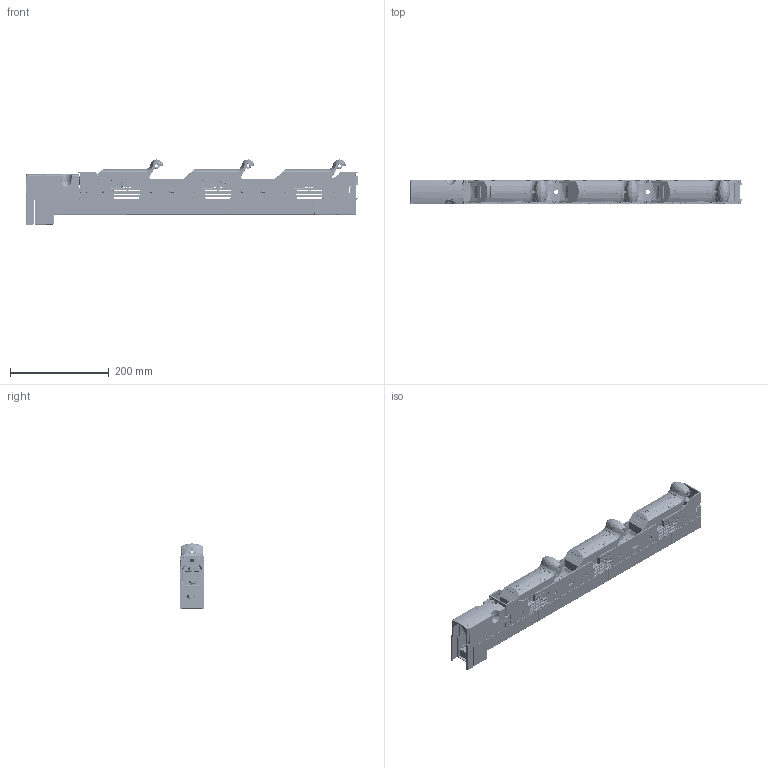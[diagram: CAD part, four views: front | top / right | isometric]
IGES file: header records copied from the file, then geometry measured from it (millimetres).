
Start section: SolidWorks IGES file using analytic representation for surfaces
Global section: file name: U:\14_RD\05_Technical_office\04_Office\Hrdinova\3D modely - IGES\Varius - FSD\FSD00-31D-FC.IGS; native system: SolidWorks 2011; preprocessor: SolidWorks 2011; author: adhrja3; date: 170620.115008; units: millimetre
Bounding box: 672.65 x 50.13 x 132.12 mm (x, y, z)
Surface area: 679258.6 mm2 (no closed solid volume)
Topology: 0 solids, 0 shells, 10273 faces, 81730 edges, 81647 vertices
Faces by surface type: bspline 6460, revolution 3813
